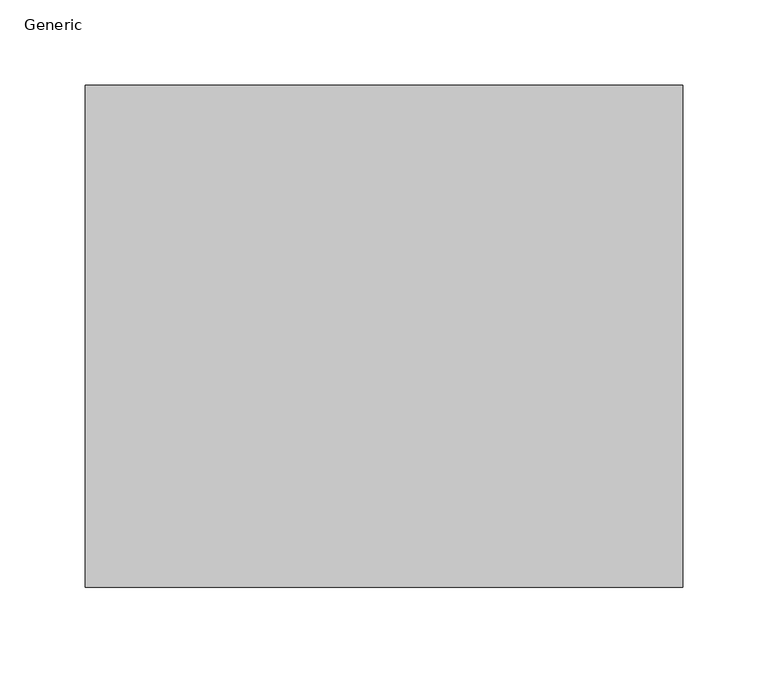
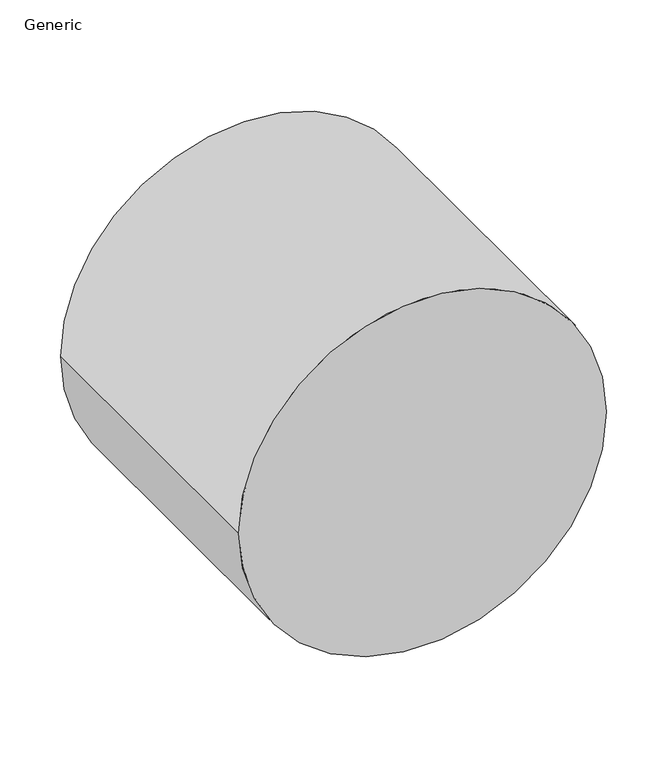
"""IFC4 building model written with IfcOpenShell, lengths in millimetres: proxy geometry, GM_Conduct : Generic."""

from ifc_helpers import new_model, si_unit, point, frame, frame_2d, origin, place, context, project, spatial, circle_curve, trimmed, segment, composite_curve, outline, extrude, source, transform, mapped, element, save


def generic_38d393d2(model_context):
    return source(origin(), model_context, "Body", "SweptSolid", [
        extrude(outline(composite_curve([segment(trimmed(circle_curve(frame_2d((123.25, 0.0)), 175.0), [point((123.25, 175.0))], [point((123.25, -175.0))], False, "CARTESIAN"), True, "CONTINUOUS"), segment(trimmed(circle_curve(frame_2d((123.25, 0.0)), 175.0), [point((123.25, -175.0))], [point((123.25, 175.0))], False, "CARTESIAN"), True, "CONTINUOUS")], self_intersect=False)), frame((0.0, 0.0, 0.0), z_axis=(0.0, 1.0, 0.0), x_axis=(0.0, 0.0, 1.0)), (0.0, 0.0, 1.0), 294.0),
    ])


if __name__ == "__main__":
    model = new_model("IFC4")
    model_context = context("Model", 3, world=origin())
    ifc_project = project(units=[si_unit("LENGTHUNIT", "METRE", prefix="MILLI")], contexts=[model_context])
    site = spatial("IfcSite", under=ifc_project)
    building = spatial("IfcBuilding", under=site)
    placement = place(None, origin())
    generic_shape = generic_38d393d2(model_context)
    element("IfcBuildingElementProxy", 1, Name="GM_Conduct : Generic", ObjectType="GM_Conduct : Generic", at=placement, inside=building, context=model_context, shape_type="MappedRepresentation", body=[
        mapped(generic_shape, transform((0.0, 0.0, 0.0), x_axis=(1.0, 0.0, 0.0), y_axis=(0.0, 1.0, 0.0), z_axis=(0.0, 0.0, 1.0))),
    ])
    save(model, "model.ifc")
